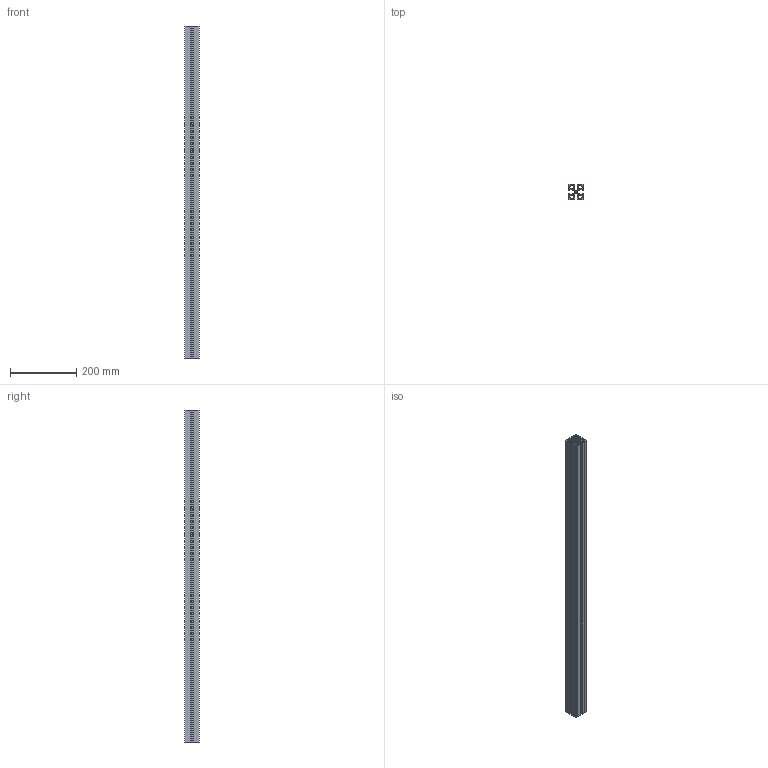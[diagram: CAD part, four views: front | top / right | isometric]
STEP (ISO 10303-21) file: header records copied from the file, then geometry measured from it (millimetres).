
FILE_DESCRIPTION(/* description */ (''),/* implementation_level */ '2;1');
FILE_NAME(/* name */ 'C:\Users\AMS43\Documents\Inventor\AMS\misumi\\X2\30D530EC30FC30E0\X0\_ipt\フレーム_stp\AFS-4545L-8.ipt.stp',/* time_stamp */ '2016-10-06T11:44:13+09:00',/* author */ ('AMS43'),/* organization */ (''),/* preprocessor_version */ 'ST-DEVELOPER v15.2',/* originating_system */ 'Autodesk Inventor 2014',/* authorisation */ '');
FILE_SCHEMA (('AUTOMOTIVE_DESIGN { 1 0 10303 214 3 1 1 }'));
Length unit declared in the file: metre
Products named in the file (1): AFS-4545L-8
Bounding box: 45 x 45 x 1000 mm (x, y, z)
Volume: 726337.7 mm3; surface area: 567430.2 mm2
Topology: 1 solids, 1 shells, 147 faces, 435 edges, 290 vertices
Faces by surface type: plane 82, cylinder 65
Full cylindrical faces by diameter (mm): 6.8 x1
Entity records: 4985 total; most frequent: CARTESIAN_POINT 872, ORIENTED_EDGE 868, DIRECTION 860, EDGE_CURVE 434, LINE 304, VECTOR 304, VERTEX_POINT 290, AXIS2_PLACEMENT_3D 278
